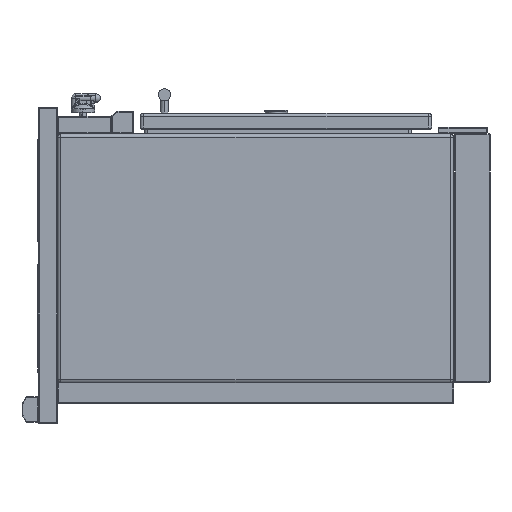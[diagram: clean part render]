
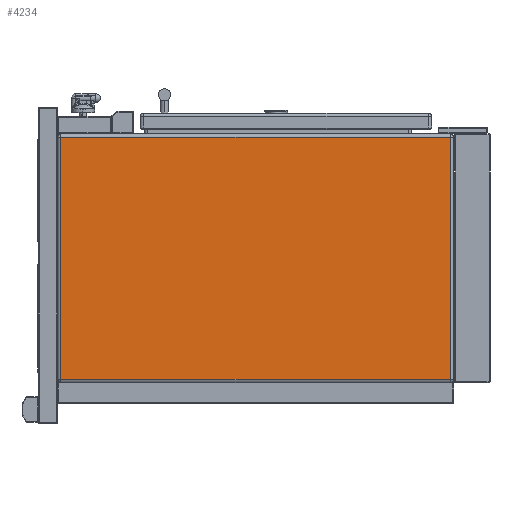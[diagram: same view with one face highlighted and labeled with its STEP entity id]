
A CAD part, left-side view. The second image highlights one B-rep face of the part: STEP entity #4234.
In plain terms, the highlighted planar face has unit normal (-1, 0, 0).
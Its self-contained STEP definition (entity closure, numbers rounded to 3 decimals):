
#539=DIRECTION('',(0.,1.,0.));
#540=VECTOR('',#539,801.);
#541=CARTESIAN_POINT('',(-750.,82.,249.));
#542=LINE('',#541,#540);
#543=DIRECTION('',(0.,0.,1.));
#544=VECTOR('',#543,498.);
#545=CARTESIAN_POINT('',(-750.,82.,-249.));
#546=LINE('',#545,#544);
#547=DIRECTION('',(0.,-1.,0.));
#548=VECTOR('',#547,801.);
#549=CARTESIAN_POINT('',(-750.,883.,-249.));
#550=LINE('',#549,#548);
#551=DIRECTION('',(0.,0.,-1.));
#552=VECTOR('',#551,498.);
#553=CARTESIAN_POINT('',(-750.,883.,249.));
#554=LINE('',#553,#552);
#2946=CARTESIAN_POINT('',(-750.,82.,249.));
#2947=CARTESIAN_POINT('',(-750.,883.,249.));
#2948=VERTEX_POINT('',#2946);
#2949=VERTEX_POINT('',#2947);
#2950=CARTESIAN_POINT('',(-750.,82.,-249.));
#2951=VERTEX_POINT('',#2950);
#2968=CARTESIAN_POINT('',(-750.,883.,-249.));
#2969=VERTEX_POINT('',#2968);
#4221=CARTESIAN_POINT('',(-750.,0.,0.));
#4222=DIRECTION('',(1.,0.,0.));
#4223=DIRECTION('',(0.,0.,-1.));
#4224=AXIS2_PLACEMENT_3D('',#4221,#4222,#4223);
#4225=PLANE('',#4224);
#4227=ORIENTED_EDGE('',*,*,#4226,.F.);
#4229=ORIENTED_EDGE('',*,*,#4228,.F.);
#4230=ORIENTED_EDGE('',*,*,#4212,.F.);
#4231=ORIENTED_EDGE('',*,*,#4018,.F.);
#4232=EDGE_LOOP('',(#4227,#4229,#4230,#4231));
#4233=FACE_OUTER_BOUND('',#4232,.F.);
#4018=EDGE_CURVE('',#2949,#2969,#554,.T.);
#4212=EDGE_CURVE('',#2969,#2951,#550,.T.);
#4226=EDGE_CURVE('',#2948,#2949,#542,.T.);
#4228=EDGE_CURVE('',#2951,#2948,#546,.T.);
#4234=ADVANCED_FACE('',(#4233),#4225,.F.);
